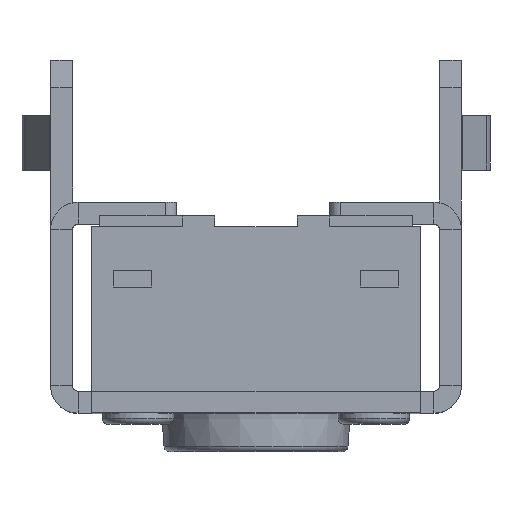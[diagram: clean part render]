
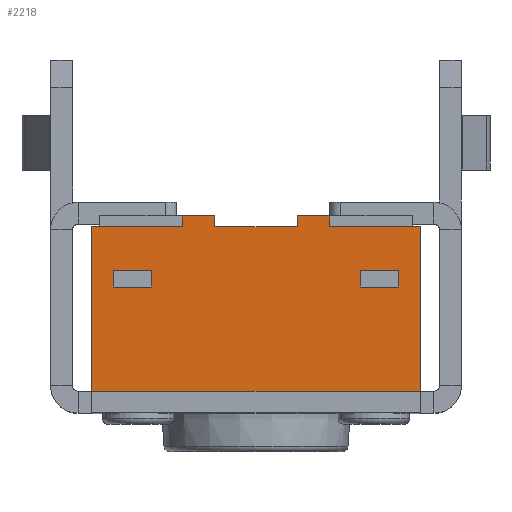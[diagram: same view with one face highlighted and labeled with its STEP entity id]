
A CAD part, top view. The second image highlights one B-rep face of the part: STEP entity #2218.
In plain terms, the highlighted planar face has unit normal (0, 0, 1).
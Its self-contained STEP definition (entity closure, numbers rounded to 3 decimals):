
#40=DIRECTION('',(1.,0.,0.));
#41=VECTOR('',#40,6.);
#42=CARTESIAN_POINT('',(-3.,0.,3.));
#43=LINE('',#42,#41);
#337=DIRECTION('',(0.,1.,0.));
#338=VECTOR('',#337,0.3);
#339=CARTESIAN_POINT('',(-2.6,1.9,3.));
#340=LINE('',#339,#338);
#344=DIRECTION('',(1.,0.,0.));
#345=VECTOR('',#344,0.7);
#346=CARTESIAN_POINT('',(-2.6,1.9,3.));
#347=LINE('',#346,#345);
#351=DIRECTION('',(0.,1.,0.));
#352=VECTOR('',#351,0.3);
#353=CARTESIAN_POINT('',(-1.9,1.9,3.));
#354=LINE('',#353,#352);
#358=DIRECTION('',(1.,0.,0.));
#359=VECTOR('',#358,0.7);
#360=CARTESIAN_POINT('',(-2.6,2.2,3.));
#361=LINE('',#360,#359);
#365=DIRECTION('',(0.,1.,0.));
#366=VECTOR('',#365,0.3);
#367=CARTESIAN_POINT('',(2.6,1.9,3.));
#368=LINE('',#367,#366);
#372=DIRECTION('',(-1.,0.,0.));
#373=VECTOR('',#372,0.7);
#374=CARTESIAN_POINT('',(2.6,2.2,3.));
#375=LINE('',#374,#373);
#379=DIRECTION('',(0.,1.,0.));
#380=VECTOR('',#379,0.3);
#381=CARTESIAN_POINT('',(1.9,1.9,3.));
#382=LINE('',#381,#380);
#386=DIRECTION('',(-1.,0.,0.));
#387=VECTOR('',#386,0.7);
#388=CARTESIAN_POINT('',(2.6,1.9,3.));
#389=LINE('',#388,#387);
#393=DIRECTION('',(1.,0.,0.));
#394=VECTOR('',#393,1.65);
#395=CARTESIAN_POINT('',(-3.,3.,3.));
#396=LINE('',#395,#394);
#400=DIRECTION('',(0.,-1.,0.));
#401=VECTOR('',#400,0.2);
#402=CARTESIAN_POINT('',(-1.35,3.2,3.));
#403=LINE('',#402,#401);
#407=DIRECTION('',(0.,-1.,0.));
#408=VECTOR('',#407,0.2);
#409=CARTESIAN_POINT('',(-0.75,3.2,3.));
#410=LINE('',#409,#408);
#414=DIRECTION('',(1.,0.,0.));
#415=VECTOR('',#414,1.5);
#416=CARTESIAN_POINT('',(-0.75,3.,3.));
#417=LINE('',#416,#415);
#421=DIRECTION('',(0.,-1.,0.));
#422=VECTOR('',#421,0.2);
#423=CARTESIAN_POINT('',(0.75,3.2,3.));
#424=LINE('',#423,#422);
#428=DIRECTION('',(0.,-1.,0.));
#429=VECTOR('',#428,0.2);
#430=CARTESIAN_POINT('',(1.35,3.2,3.));
#431=LINE('',#430,#429);
#435=DIRECTION('',(1.,0.,0.));
#436=VECTOR('',#435,1.65);
#437=CARTESIAN_POINT('',(1.35,3.,3.));
#438=LINE('',#437,#436);
#442=DIRECTION('',(0.,1.,0.));
#443=VECTOR('',#442,3.);
#444=CARTESIAN_POINT('',(-3.,0.,3.));
#445=LINE('',#444,#443);
#834=DIRECTION('',(1.,0.,0.));
#835=VECTOR('',#834,0.6);
#836=CARTESIAN_POINT('',(-1.35,3.2,3.));
#837=LINE('',#836,#835);
#974=DIRECTION('',(1.,0.,0.));
#975=VECTOR('',#974,0.6);
#976=CARTESIAN_POINT('',(0.75,3.2,3.));
#977=LINE('',#976,#975);
#1107=DIRECTION('',(0.,1.,0.));
#1108=VECTOR('',#1107,3.);
#1109=CARTESIAN_POINT('',(3.,0.,3.));
#1110=LINE('',#1109,#1108);
#1612=CARTESIAN_POINT('',(-3.,0.,3.));
#1613=VERTEX_POINT('',#1612);
#1614=CARTESIAN_POINT('',(3.,0.,3.));
#1615=VERTEX_POINT('',#1614);
#1640=CARTESIAN_POINT('',(-2.6,1.9,3.));
#1641=VERTEX_POINT('',#1640);
#1642=CARTESIAN_POINT('',(-2.6,2.2,3.));
#1643=VERTEX_POINT('',#1642);
#1644=CARTESIAN_POINT('',(-1.9,1.9,3.));
#1645=VERTEX_POINT('',#1644);
#1646=CARTESIAN_POINT('',(-1.9,2.2,3.));
#1647=VERTEX_POINT('',#1646);
#1756=CARTESIAN_POINT('',(2.6,1.9,3.));
#1757=VERTEX_POINT('',#1756);
#1758=CARTESIAN_POINT('',(2.6,2.2,3.));
#1759=VERTEX_POINT('',#1758);
#1760=CARTESIAN_POINT('',(1.9,1.9,3.));
#1761=VERTEX_POINT('',#1760);
#1762=CARTESIAN_POINT('',(1.9,2.2,3.));
#1763=VERTEX_POINT('',#1762);
#1822=CARTESIAN_POINT('',(-1.35,3.,3.));
#1823=VERTEX_POINT('',#1822);
#1825=CARTESIAN_POINT('',(-0.75,3.,3.));
#1827=VERTEX_POINT('',#1825);
#1828=CARTESIAN_POINT('',(0.75,3.,3.));
#1830=VERTEX_POINT('',#1828);
#1832=CARTESIAN_POINT('',(1.35,3.,3.));
#1833=VERTEX_POINT('',#1832);
#1870=CARTESIAN_POINT('',(-1.35,3.2,3.));
#1871=VERTEX_POINT('',#1870);
#1872=CARTESIAN_POINT('',(-0.75,3.2,3.));
#1874=VERTEX_POINT('',#1872);
#1876=CARTESIAN_POINT('',(0.75,3.2,3.));
#1878=VERTEX_POINT('',#1876);
#1880=CARTESIAN_POINT('',(1.35,3.2,3.));
#1881=VERTEX_POINT('',#1880);
#1888=CARTESIAN_POINT('',(-3.,3.,3.));
#1889=VERTEX_POINT('',#1888);
#1890=CARTESIAN_POINT('',(3.,3.,3.));
#1891=VERTEX_POINT('',#1890);
#2171=CARTESIAN_POINT('',(-3.,0.,3.));
#2172=DIRECTION('',(0.,0.,1.));
#2173=DIRECTION('',(1.,0.,0.));
#2174=AXIS2_PLACEMENT_3D('',#2171,#2172,#2173);
#2175=PLANE('',#2174);
#2177=ORIENTED_EDGE('',*,*,#2176,.T.);
#2179=ORIENTED_EDGE('',*,*,#2178,.F.);
#2181=ORIENTED_EDGE('',*,*,#2180,.T.);
#2183=ORIENTED_EDGE('',*,*,#2182,.T.);
#2185=ORIENTED_EDGE('',*,*,#2184,.T.);
#2187=ORIENTED_EDGE('',*,*,#2186,.F.);
#2189=ORIENTED_EDGE('',*,*,#2188,.T.);
#2191=ORIENTED_EDGE('',*,*,#2190,.T.);
#2193=ORIENTED_EDGE('',*,*,#2192,.T.);
#2195=ORIENTED_EDGE('',*,*,#2194,.F.);
#2196=ORIENTED_EDGE('',*,*,#1901,.F.);
#2198=ORIENTED_EDGE('',*,*,#2197,.T.);
#2199=EDGE_LOOP('',(#2177,#2179,#2181,#2183,#2185,#2187,#2189,#2191,#2193,#2195,
#2196,#2198));
#2200=FACE_OUTER_BOUND('',#2199,.F.);
#2202=ORIENTED_EDGE('',*,*,#2201,.T.);
#2204=ORIENTED_EDGE('',*,*,#2203,.T.);
#2206=ORIENTED_EDGE('',*,*,#2205,.F.);
#2208=ORIENTED_EDGE('',*,*,#2207,.F.);
#2209=EDGE_LOOP('',(#2202,#2204,#2206,#2208));
#2210=FACE_BOUND('',#2209,.F.);
#2211=ORIENTED_EDGE('',*,*,#1996,.F.);
#2212=ORIENTED_EDGE('',*,*,#2054,.T.);
#2214=ORIENTED_EDGE('',*,*,#2213,.T.);
#2215=ORIENTED_EDGE('',*,*,#2121,.F.);
#2216=EDGE_LOOP('',(#2211,#2212,#2214,#2215));
#2217=FACE_BOUND('',#2216,.F.);
#1901=EDGE_CURVE('',#1613,#1615,#43,.T.);
#1996=EDGE_CURVE('',#1641,#1643,#340,.T.);
#2054=EDGE_CURVE('',#1641,#1645,#347,.T.);
#2121=EDGE_CURVE('',#1643,#1647,#361,.T.);
#2176=EDGE_CURVE('',#1889,#1823,#396,.T.);
#2178=EDGE_CURVE('',#1871,#1823,#403,.T.);
#2180=EDGE_CURVE('',#1871,#1874,#837,.T.);
#2182=EDGE_CURVE('',#1874,#1827,#410,.T.);
#2184=EDGE_CURVE('',#1827,#1830,#417,.T.);
#2186=EDGE_CURVE('',#1878,#1830,#424,.T.);
#2188=EDGE_CURVE('',#1878,#1881,#977,.T.);
#2190=EDGE_CURVE('',#1881,#1833,#431,.T.);
#2192=EDGE_CURVE('',#1833,#1891,#438,.T.);
#2194=EDGE_CURVE('',#1615,#1891,#1110,.T.);
#2197=EDGE_CURVE('',#1613,#1889,#445,.T.);
#2201=EDGE_CURVE('',#1757,#1759,#368,.T.);
#2203=EDGE_CURVE('',#1759,#1763,#375,.T.);
#2205=EDGE_CURVE('',#1761,#1763,#382,.T.);
#2207=EDGE_CURVE('',#1757,#1761,#389,.T.);
#2213=EDGE_CURVE('',#1645,#1647,#354,.T.);
#2218=ADVANCED_FACE('',(#2200,#2210,#2217),#2175,.T.);
